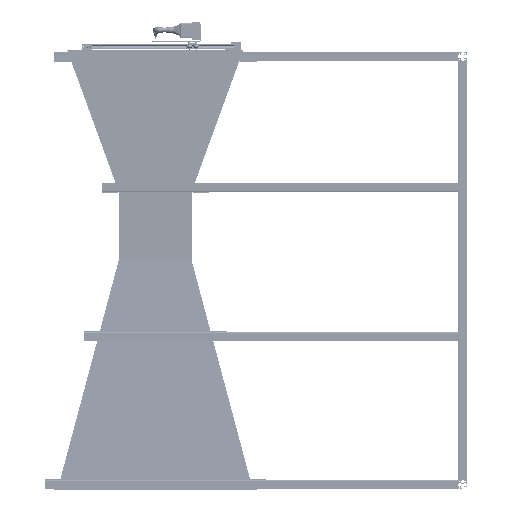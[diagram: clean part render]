
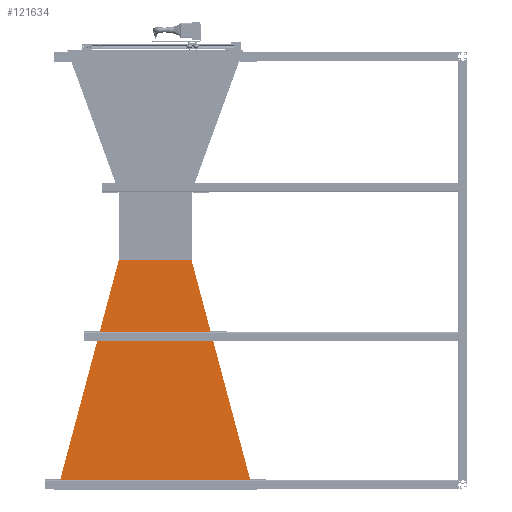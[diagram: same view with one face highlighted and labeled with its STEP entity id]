
A CAD part, left-side view. The second image highlights one B-rep face of the part: STEP entity #121634.
In plain terms, the highlighted planar face has unit normal (-0.999, 0, 0.05).
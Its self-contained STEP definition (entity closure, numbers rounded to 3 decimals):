
#119007=CARTESIAN_POINT('Vertex',(-122.884,2009.9,-1393.888)) ;
#119500=CARTESIAN_POINT('Vertex',(-122.884,2329.9,-1393.888)) ;
#120292=CARTESIAN_POINT('Line Origine',(-122.884,2169.971,-1393.888)) ;
#120464=CARTESIAN_POINT('Line Origine',(-122.879,2009.9,-1393.788)) ;
#120468=CARTESIAN_POINT('Vertex',(-122.874,2009.9,-1393.688)) ;
#120502=CARTESIAN_POINT('Vertex',(-172.837,1743.262,-2392.959)) ;
#120509=CARTESIAN_POINT('Vertex',(-122.874,2009.847,-1393.688)) ;
#120512=CARTESIAN_POINT('Line Origine',(-147.856,1876.554,-1893.324)) ;
#120533=CARTESIAN_POINT('Vertex',(-172.864,2596.68,-2393.489)) ;
#120536=CARTESIAN_POINT('Line Origine',(-172.851,2169.971,-2393.224)) ;
#120557=CARTESIAN_POINT('Vertex',(-122.874,2329.953,-1393.688)) ;
#120560=CARTESIAN_POINT('Line Origine',(-147.869,2463.316,-1893.589)) ;
#120577=CARTESIAN_POINT('Line Origine',(-122.874,2329.927,-1393.688)) ;
#120581=CARTESIAN_POINT('Vertex',(-122.874,2329.9,-1393.688)) ;
#120644=CARTESIAN_POINT('Line Origine',(-122.874,2009.873,-1393.688)) ;
#120662=CARTESIAN_POINT('Line Origine',(-122.879,2329.9,-1393.788)) ;
#121619=CARTESIAN_POINT('Axis2P3D Location',(-107.901,2319.9,-1094.237)) ;
#120293=DIRECTION('Vector Direction',(0.,-1.,0.)) ;
#120465=DIRECTION('Vector Direction',(-0.05,0.,-0.999)) ;
#120513=DIRECTION('Vector Direction',(0.048,0.257,0.965)) ;
#120537=DIRECTION('Vector Direction',(0.,-1.,0.001)) ;
#120561=DIRECTION('Vector Direction',(-0.048,0.257,-0.965)) ;
#120578=DIRECTION('Vector Direction',(0.,-1.,0.)) ;
#120645=DIRECTION('Vector Direction',(0.,-1.,0.)) ;
#120663=DIRECTION('Vector Direction',(0.05,0.,0.999)) ;
#121620=DIRECTION('Axis2P3D Direction',(-0.999,0.,0.05)) ;
#121621=DIRECTION('Axis2P3D XDirection',(0.05,0.,0.999)) ;
#121622=AXIS2_PLACEMENT_3D('Plane Axis2P3D',#121619,#121620,#121621) ;
#121625=ORIENTED_EDGE('',*,*,#120648,.F.) ;
#121626=ORIENTED_EDGE('',*,*,#120470,.T.) ;
#121627=ORIENTED_EDGE('',*,*,#120296,.F.) ;
#121628=ORIENTED_EDGE('',*,*,#120666,.T.) ;
#121629=ORIENTED_EDGE('',*,*,#120583,.F.) ;
#121630=ORIENTED_EDGE('',*,*,#120564,.T.) ;
#121631=ORIENTED_EDGE('',*,*,#120540,.T.) ;
#121632=ORIENTED_EDGE('',*,*,#120516,.T.) ;
#120294=VECTOR('Line Direction',#120293,1.) ;
#120466=VECTOR('Line Direction',#120465,1.) ;
#120514=VECTOR('Line Direction',#120513,1.) ;
#120538=VECTOR('Line Direction',#120537,1.) ;
#120562=VECTOR('Line Direction',#120561,1.) ;
#120579=VECTOR('Line Direction',#120578,1.) ;
#120646=VECTOR('Line Direction',#120645,1.) ;
#120664=VECTOR('Line Direction',#120663,1.) ;
#121634=ADVANCED_FACE('Tunel',(#121633),#121623,.T.) ;
#120296=EDGE_CURVE('',#119501,#119008,#120295,.T.) ;
#120470=EDGE_CURVE('',#120469,#119008,#120467,.T.) ;
#120516=EDGE_CURVE('',#120503,#120510,#120515,.T.) ;
#120540=EDGE_CURVE('',#120534,#120503,#120539,.T.) ;
#120564=EDGE_CURVE('',#120558,#120534,#120563,.T.) ;
#120583=EDGE_CURVE('',#120558,#120582,#120580,.T.) ;
#120648=EDGE_CURVE('',#120469,#120510,#120647,.T.) ;
#120666=EDGE_CURVE('',#119501,#120582,#120665,.T.) ;
#121624=EDGE_LOOP('',(#121625,#121626,#121627,#121628,#121629,#121630,#121631,#121632)) ;
#121633=FACE_OUTER_BOUND('',#121624,.T.) ;
#120295=LINE('Line',#120292,#120294) ;
#120467=LINE('Line',#120464,#120466) ;
#120515=LINE('Line',#120512,#120514) ;
#120539=LINE('Line',#120536,#120538) ;
#120563=LINE('Line',#120560,#120562) ;
#120580=LINE('Line',#120577,#120579) ;
#120647=LINE('Line',#120644,#120646) ;
#120665=LINE('Line',#120662,#120664) ;
#121623=PLANE('',#121622) ;
#119008=VERTEX_POINT('',#119007) ;
#119501=VERTEX_POINT('',#119500) ;
#120469=VERTEX_POINT('',#120468) ;
#120503=VERTEX_POINT('',#120502) ;
#120510=VERTEX_POINT('',#120509) ;
#120534=VERTEX_POINT('',#120533) ;
#120558=VERTEX_POINT('',#120557) ;
#120582=VERTEX_POINT('',#120581) ;
